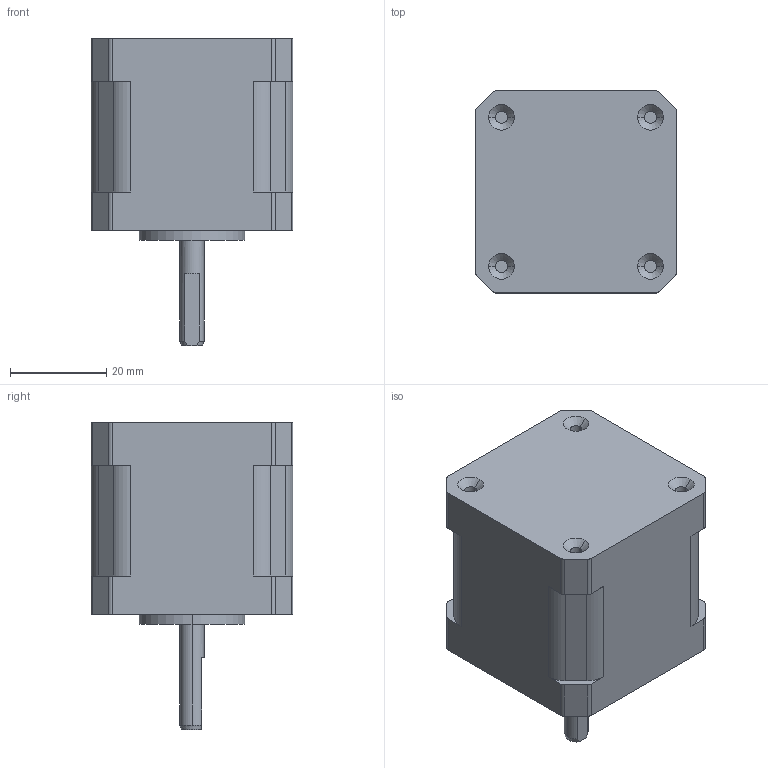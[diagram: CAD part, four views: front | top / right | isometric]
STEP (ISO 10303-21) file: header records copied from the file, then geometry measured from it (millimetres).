
FILE_DESCRIPTION((''),'2;1');
FILE_NAME('QL42HDS40_01A','2021-09-04T15:03:55',('qingl'),(''),'CREO PARAMETRIC BY PTC INC, 2019224','CREO PARAMETRIC BY PTC INC, 2019224','');
FILE_SCHEMA(('AUTOMOTIVE_DESIGN { 1 0 10303 214 1 1 1 1 }'));
Length unit declared in the file: millimetre
Products named in the file (1): QL42HDS40_01A
Bounding box: 42 x 42 x 64 mm (x, y, z)
Volume: 68765.8 mm3; surface area: 11034.8 mm2
Topology: 1 solids, 1 shells, 282 faces, 785 edges, 518 vertices
Faces by surface type: cylinder 212, plane 53, cone 9, bspline 8
Entity records: 16289 total; most frequent: CARTESIAN_POINT 8411, ORIENTED_EDGE 1570, DIRECTION 1106, EDGE_CURVE 785, VERTEX_POINT 518, AXIS2_PLACEMENT_3D 389, B_SPLINE_CURVE_WITH_KNOTS 342, VECTOR 328
